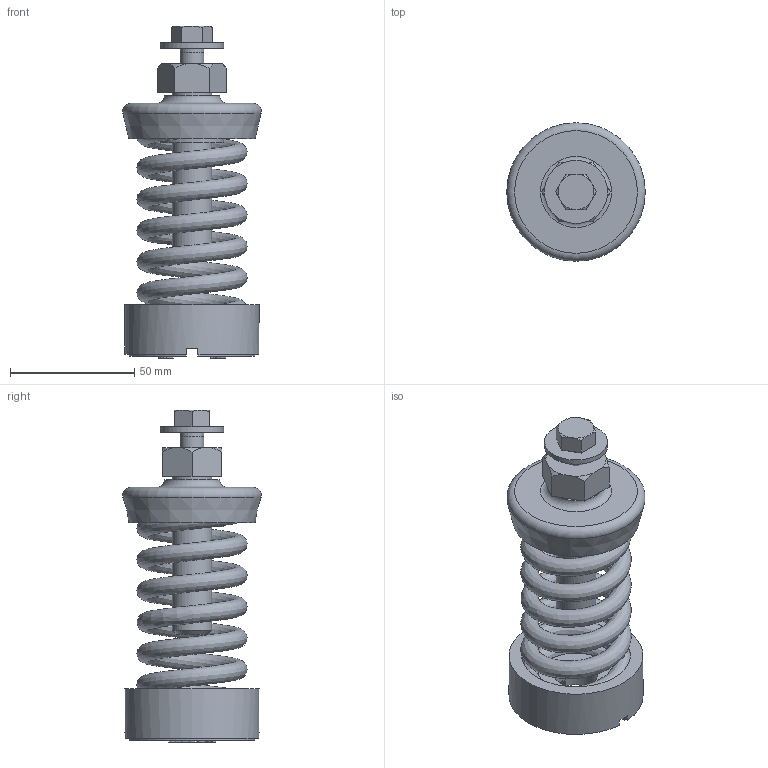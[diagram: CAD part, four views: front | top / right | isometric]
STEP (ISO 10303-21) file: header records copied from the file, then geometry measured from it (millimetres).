
FILE_DESCRIPTION(/* description */ (''),/* implementation_level */ '2;1');
FILE_NAME(/* name */ '\\Mleuckthor2\cad-proe_solids\WEBSITE FILES 05.22.13\STEP\SLFA\SLF-A-625.stp',/* time_stamp */ '2016-02-29T08:38:43-05:00',/* author */ ('rramoutar'),/* organization */ ('Mason Industries Inc.'),/* preprocessor_version */ 'ST-DEVELOPER v15.6',/* originating_system */ 'Autodesk Inventor 2015',/* authorisation */ '');
FILE_SCHEMA (('CONFIG_CONTROL_DESIGN'));
Length unit declared in the file: inch
Products named in the file (1): SLF-A-625
Bounding box: 55.7 x 55.7 x 133.53 mm (x, y, z)
Volume: 104375.7 mm3; surface area: 52338.2 mm2
Topology: 7 solids, 8 shells, 335 faces, 851 edges, 562 vertices
Faces by surface type: plane 225, bspline 63, cylinder 25, cone 18, torus 4
Full cylindrical faces by diameter (mm): 7.798 x1, 9.525 x1, 11.125 x1, 13.386 x1, 14.275 x1, 15.875 x1, 17.462 x1, 24.606 x2, 25.4 x1, 43.656 x1, 44.45 x2, 46.037 x1, 53.975 x1
Entity records: 12726 total; most frequent: CARTESIAN_POINT 4786, ORIENTED_EDGE 1640, DIRECTION 1299, EDGE_CURVE 820, LINE 579, VECTOR 579, VERTEX_POINT 556, EDGE_LOOP 400
